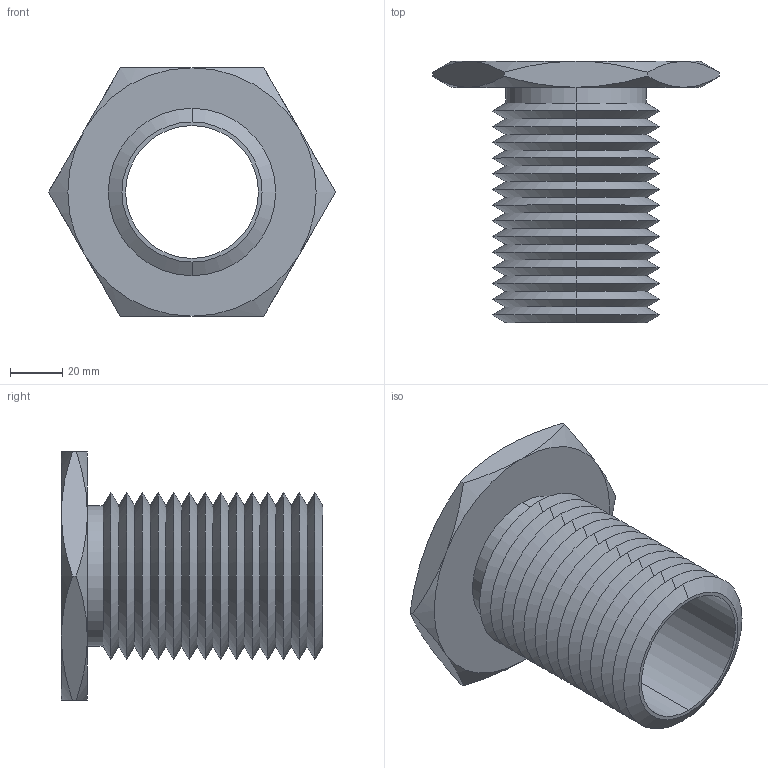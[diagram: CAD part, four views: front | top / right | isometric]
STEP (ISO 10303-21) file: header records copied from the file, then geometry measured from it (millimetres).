
FILE_DESCRIPTION (( 'STEP AP203' ), '1' );
FILE_NAME ('63302.W0064_2,00 UNC-4,5.step', '2013-12-08T11:29:23', ( 'User' ), ( '' ), 'SwSTEP 2.0', 'SolidWorks 2009', '' );
FILE_SCHEMA (( 'CONFIG_CONTROL_DESIGN' ));
Length unit declared in the file: millimetre
Products named in the file (1): 63302.W0064_2,00 UNC-4,5
Bounding box: 109.7 x 100 x 95 mm (x, y, z)
Volume: 113149.2 mm3; surface area: 61655.8 mm2
Topology: 1 solids, 1 shells, 83 faces, 170 edges, 90 vertices
Faces by surface type: cone 70, plane 9, cylinder 4
Entity records: 2371 total; most frequent: CARTESIAN_POINT 560, DIRECTION 392, ORIENTED_EDGE 340, EDGE_CURVE 170, AXIS2_PLACEMENT_3D 162, VERTEX_POINT 90, EDGE_LOOP 86, ADVANCED_FACE 83
